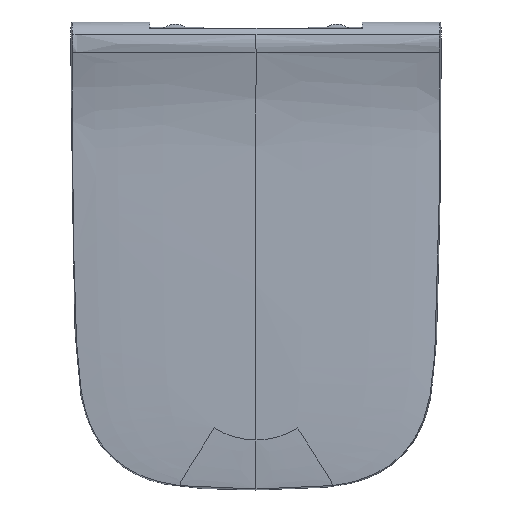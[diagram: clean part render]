
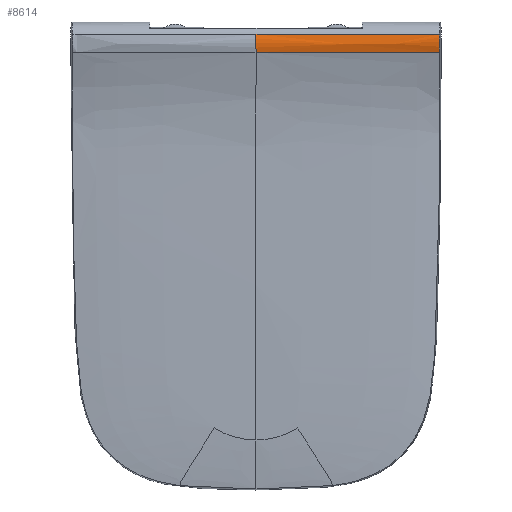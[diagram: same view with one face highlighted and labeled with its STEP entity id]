
A CAD part, top view. The second image highlights one B-rep face of the part: STEP entity #8614.
In plain terms, the highlighted free-form (B-spline) face has degree [3, 3] with [6, 5] control points.
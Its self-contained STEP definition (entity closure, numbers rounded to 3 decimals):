
#159=B_SPLINE_SURFACE_WITH_KNOTS('',3,3,((#56691,#56692,#56693,#56694,#56695),
(#56696,#56697,#56698,#56699,#56700),(#56701,#56702,#56703,#56704,#56705),
(#56706,#56707,#56708,#56709,#56710),(#56711,#56712,#56713,#56714,#56715),
(#56716,#56717,#56718,#56719,#56720)),.UNSPECIFIED.,.F.,.F.,.F.,(4,1,1,
4),(4,1,4),(-0.021,0.234,0.489,1.),(-0.002,
0.5,1.),.UNSPECIFIED.);
#1204=LINE('',#51281,#1674);
#1674=VECTOR('',#10960,1.);
#2187=FACE_OUTER_BOUND('',#2711,.T.);
#2711=EDGE_LOOP('',(#7483,#7484,#7485,#7486));
#3098=B_SPLINE_CURVE_WITH_KNOTS('',3,(#56572,#56573,#56574,#56575,#56576,
#56577,#56578,#56579,#56580,#56581,#56582,#56583,#56584,#56585,#56586,#56587,
#56588,#56589,#56590,#56591),.UNSPECIFIED.,.F.,.F.,(4,2,2,2,2,2,2,2,2,4),
(-1.813,-1.129,-0.906,-0.739,
-0.661,-0.601,-0.536,-0.433,
-0.201,0.),.UNSPECIFIED.);
#3101=B_SPLINE_CURVE_WITH_KNOTS('',3,(#56722,#56723,#56724,#56725,#56726,
#56727,#56728,#56729,#56730,#56731,#56732,#56733,#56734,#56735,#56736,#56737,
#56738,#56739,#56740,#56741,#56742,#56743,#56744,#56745,#56746),
 .UNSPECIFIED.,.F.,.F.,(4,3,3,3,3,3,3,3,4),(0.,0.104,
0.236,0.378,0.524,0.671,
0.814,0.942,1.),.UNSPECIFIED.);
#3102=B_SPLINE_CURVE_WITH_KNOTS('',3,(#56747,#56748,#56749,#56750,#56751,
#56752,#56753,#56754,#56755,#56756,#56757,#56758,#56759,#56760,#56761,#56762),
 .UNSPECIFIED.,.F.,.F.,(4,2,2,2,2,2,2,4),(0.,0.1,0.458,
0.558,0.658,0.866,0.966,1.),
 .UNSPECIFIED.);
#3883=VERTEX_POINT('',#51278);
#3884=VERTEX_POINT('',#51280);
#3917=VERTEX_POINT('',#56571);
#3921=VERTEX_POINT('',#56721);
#5065=EDGE_CURVE('',#3883,#3884,#1204,.T.);
#5117=EDGE_CURVE('',#3917,#3884,#3098,.T.);
#5124=EDGE_CURVE('',#3921,#3883,#3101,.T.);
#5125=EDGE_CURVE('',#3921,#3917,#3102,.T.);
#7483=ORIENTED_EDGE('',*,*,#5124,.F.);
#7484=ORIENTED_EDGE('',*,*,#5125,.T.);
#7485=ORIENTED_EDGE('',*,*,#5117,.T.);
#7486=ORIENTED_EDGE('',*,*,#5065,.F.);
#8614=ADVANCED_FACE('',(#2187),#159,.F.);
#10960=DIRECTION('',(1.,0.,0.));
#51278=CARTESIAN_POINT('',(0.,6.156,40.865));
#51280=CARTESIAN_POINT('',(176.178,6.156,40.865));
#51281=CARTESIAN_POINT('',(0.,6.156,40.865));
#56571=CARTESIAN_POINT('',(176.199,-11.499,39.562));
#56572=CARTESIAN_POINT('Ctrl Pts',(176.199,-11.5,39.565));
#56573=CARTESIAN_POINT('Ctrl Pts',(176.166,-9.376,40.334));
#56574=CARTESIAN_POINT('Ctrl Pts',(176.139,-7.216,40.976));
#56575=CARTESIAN_POINT('Ctrl Pts',(176.119,-4.251,41.515));
#56576=CARTESIAN_POINT('Ctrl Pts',(176.115,-3.518,41.622));
#56577=CARTESIAN_POINT('Ctrl Pts',(176.111,-2.23,41.76));
#56578=CARTESIAN_POINT('Ctrl Pts',(176.11,-1.675,41.804));
#56579=CARTESIAN_POINT('Ctrl Pts',(176.11,-0.861,
41.843));
#56580=CARTESIAN_POINT('Ctrl Pts',(176.111,-0.6,
41.851));
#56581=CARTESIAN_POINT('Ctrl Pts',(176.112,-0.14,
41.858));
#56582=CARTESIAN_POINT('Ctrl Pts',(176.112,0.06,
41.859));
#56583=CARTESIAN_POINT('Ctrl Pts',(176.113,0.475,41.854));
#56584=CARTESIAN_POINT('Ctrl Pts',(176.114,0.691,41.849));
#56585=CARTESIAN_POINT('Ctrl Pts',(176.117,1.252,41.827));
#56586=CARTESIAN_POINT('Ctrl Pts',(176.119,1.595,41.805));
#56587=CARTESIAN_POINT('Ctrl Pts',(176.126,2.707,41.706));
#56588=CARTESIAN_POINT('Ctrl Pts',(176.134,3.472,41.592));
#56589=CARTESIAN_POINT('Ctrl Pts',(176.154,4.881,41.28));
#56590=CARTESIAN_POINT('Ctrl Pts',(176.165,5.526,41.094));
#56591=CARTESIAN_POINT('Ctrl Pts',(176.178,6.156,40.865));
#56691=CARTESIAN_POINT('Ctrl Pts',(176.2,-11.528,39.555));
#56692=CARTESIAN_POINT('Ctrl Pts',(176.153,-8.521,40.645));
#56693=CARTESIAN_POINT('Ctrl Pts',(176.09,-2.835,42.149));
#56694=CARTESIAN_POINT('Ctrl Pts',(176.119,3.343,41.891));
#56695=CARTESIAN_POINT('Ctrl Pts',(176.178,6.156,40.864));
#56696=CARTESIAN_POINT('Ctrl Pts',(161.525,-11.522,40.046));
#56697=CARTESIAN_POINT('Ctrl Pts',(161.481,-8.604,41.065));
#56698=CARTESIAN_POINT('Ctrl Pts',(161.421,-2.952,42.366));
#56699=CARTESIAN_POINT('Ctrl Pts',(161.443,3.271,41.907));
#56700=CARTESIAN_POINT('Ctrl Pts',(161.497,6.156,40.864));
#56701=CARTESIAN_POINT('Ctrl Pts',(132.157,-11.528,40.541));
#56702=CARTESIAN_POINT('Ctrl Pts',(132.12,-8.751,41.407));
#56703=CARTESIAN_POINT('Ctrl Pts',(132.071,-3.139,42.563));
#56704=CARTESIAN_POINT('Ctrl Pts',(132.09,3.154,41.961));
#56705=CARTESIAN_POINT('Ctrl Pts',(132.134,6.156,40.864));
#56706=CARTESIAN_POINT('Ctrl Pts',(73.423,-11.52,41.045));
#56707=CARTESIAN_POINT('Ctrl Pts',(73.402,-9.056,41.764));
#56708=CARTESIAN_POINT('Ctrl Pts',(73.374,-3.528,42.81));
#56709=CARTESIAN_POINT('Ctrl Pts',(73.384,2.948,42.03));
#56710=CARTESIAN_POINT('Ctrl Pts',(73.407,6.156,40.864));
#56711=CARTESIAN_POINT('Ctrl Pts',(29.368,-11.513,41.123));
#56712=CARTESIAN_POINT('Ctrl Pts',(29.36,-9.278,41.764));
#56713=CARTESIAN_POINT('Ctrl Pts',(29.349,-3.824,42.844));
#56714=CARTESIAN_POINT('Ctrl Pts',(29.353,2.811,42.078));
#56715=CARTESIAN_POINT('Ctrl Pts',(29.363,6.156,40.864));
#56716=CARTESIAN_POINT('Ctrl Pts',(0.,-11.519,
41.143));
#56717=CARTESIAN_POINT('Ctrl Pts',(0.,-9.435,
41.735));
#56718=CARTESIAN_POINT('Ctrl Pts',(0.,-4.037,
42.848));
#56719=CARTESIAN_POINT('Ctrl Pts',(0.,2.72,
42.115));
#56720=CARTESIAN_POINT('Ctrl Pts',(0.,6.156,
40.864));
#56721=CARTESIAN_POINT('',(0.,-11.519,41.143));
#56722=CARTESIAN_POINT('Ctrl Pts',(0.,-11.519,
41.143));
#56723=CARTESIAN_POINT('Ctrl Pts',(0.,-11.084,
41.267));
#56724=CARTESIAN_POINT('Ctrl Pts',(0.,-10.623,
41.389));
#56725=CARTESIAN_POINT('Ctrl Pts',(0.,-10.136,
41.506));
#56726=CARTESIAN_POINT('Ctrl Pts',(0.,-9.524,
41.652));
#56727=CARTESIAN_POINT('Ctrl Pts',(0.,-8.873,
41.791));
#56728=CARTESIAN_POINT('Ctrl Pts',(0.,-8.189,
41.913));
#56729=CARTESIAN_POINT('Ctrl Pts',(0.,-7.453,
42.044));
#56730=CARTESIAN_POINT('Ctrl Pts',(0.,-6.678,
42.156));
#56731=CARTESIAN_POINT('Ctrl Pts',(0.,-5.87,
42.24));
#56732=CARTESIAN_POINT('Ctrl Pts',(0.,-5.034,
42.326));
#56733=CARTESIAN_POINT('Ctrl Pts',(0.,-4.162,
42.382));
#56734=CARTESIAN_POINT('Ctrl Pts',(0.,-3.263,
42.397));
#56735=CARTESIAN_POINT('Ctrl Pts',(0.,-2.361,
42.412));
#56736=CARTESIAN_POINT('Ctrl Pts',(0.,-1.432,
42.385));
#56737=CARTESIAN_POINT('Ctrl Pts',(0.,-0.481,
42.306));
#56738=CARTESIAN_POINT('Ctrl Pts',(0.,0.449,
42.229));
#56739=CARTESIAN_POINT('Ctrl Pts',(0.,1.4,
42.102));
#56740=CARTESIAN_POINT('Ctrl Pts',(0.,2.365,
41.914));
#56741=CARTESIAN_POINT('Ctrl Pts',(0.,3.221,
41.748));
#56742=CARTESIAN_POINT('Ctrl Pts',(0.,4.088,
41.534));
#56743=CARTESIAN_POINT('Ctrl Pts',(0.,4.962,
41.265));
#56744=CARTESIAN_POINT('Ctrl Pts',(0.,5.359,
41.143));
#56745=CARTESIAN_POINT('Ctrl Pts',(0.,5.757,
41.01));
#56746=CARTESIAN_POINT('Ctrl Pts',(0.,6.156,
40.865));
#56747=CARTESIAN_POINT('Ctrl Pts',(0.,-11.519,
41.143));
#56748=CARTESIAN_POINT('Ctrl Pts',(6.421,-11.518,41.144));
#56749=CARTESIAN_POINT('Ctrl Pts',(13.003,-11.516,41.137));
#56750=CARTESIAN_POINT('Ctrl Pts',(43.499,-11.51,41.096));
#56751=CARTESIAN_POINT('Ctrl Pts',(68.927,-11.51,41.009));
#56752=CARTESIAN_POINT('Ctrl Pts',(97.051,-11.509,40.834));
#56753=CARTESIAN_POINT('Ctrl Pts',(102.645,-11.509,40.791));
#56754=CARTESIAN_POINT('Ctrl Pts',(113.146,-11.508,40.701));
#56755=CARTESIAN_POINT('Ctrl Pts',(118.051,-11.507,40.653));
#56756=CARTESIAN_POINT('Ctrl Pts',(132.722,-11.507,40.485));
#56757=CARTESIAN_POINT('Ctrl Pts',(142.006,-11.506,40.367));
#56758=CARTESIAN_POINT('Ctrl Pts',(157.832,-11.504,40.071));
#56759=CARTESIAN_POINT('Ctrl Pts',(163.288,-11.504,39.956));
#56760=CARTESIAN_POINT('Ctrl Pts',(171.633,-11.5,39.712));
#56761=CARTESIAN_POINT('Ctrl Pts',(173.857,-11.501,39.646));
#56762=CARTESIAN_POINT('Ctrl Pts',(176.199,-11.499,39.562));
